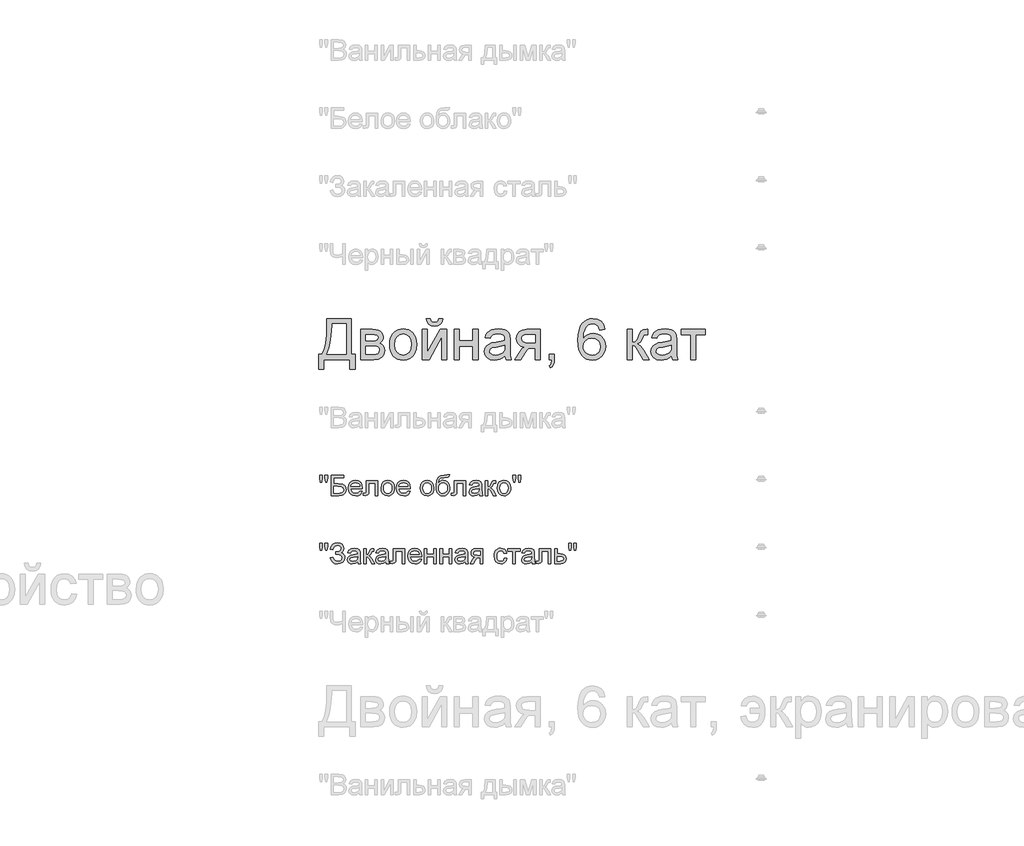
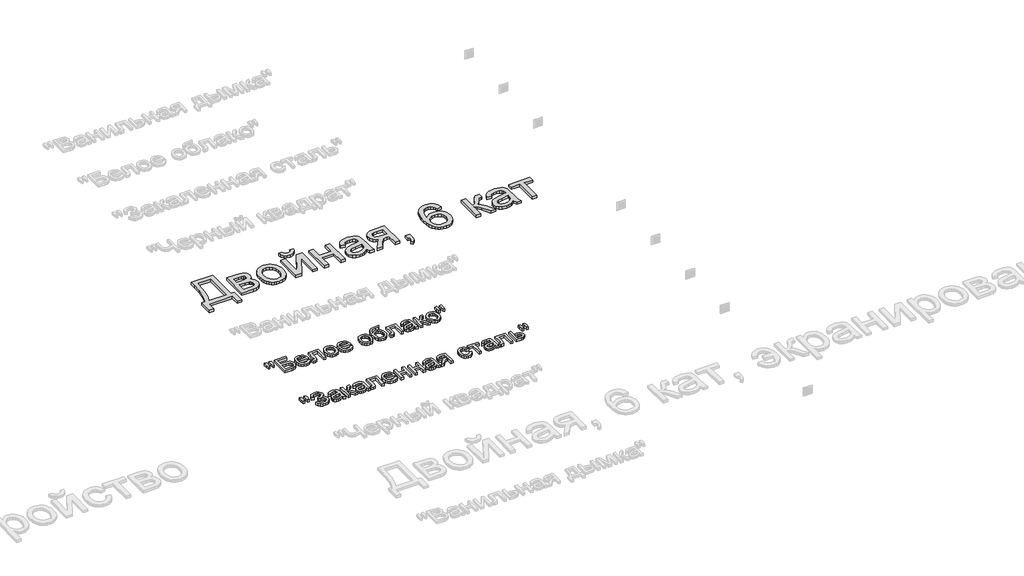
# One storey, part 155 of 168: 3 proxies.
"""IFC4 building model written with IfcOpenShell, lengths in millimetres."""

from ifc_helpers import new_model, si_unit, origin, origin_with_axes, place, context, project, spatial, polyline, outline, extrude, element, save

model = new_model("IFC4")

# Units and contexts
model_context = context("Model", 3, world=origin())
ifc_project = project(units=[si_unit("LENGTHUNIT", "METRE", prefix="MILLI")], contexts=[model_context])

# Site, building, storey
site = spatial("IfcSite", under=ifc_project)
building = spatial("IfcBuilding", under=site)
storey = spatial("IfcBuildingStorey", under=building, Name="Этаж 01", Elevation=0.0)

# Proxies
placement = place(None, origin())
element("IfcBuildingElementProxy", 1, Name="300 мм Arial 2", ObjectType="300 мм Arial 2", at=placement, inside=storey, context=model_context, shape_type="SweptSolid", body=[
    extrude(outline(polyline([(77327.3478389, -13847.0367511), (77506.2856413, -13847.0367511), (77506.2856413, -14110.7345653), (77534.5389786, -14110.7345653), (77534.5389786, -14219.0390246), (77496.8678623, -14219.0390246), (77496.8678623, -14148.4056816), (77303.8033912, -14148.4056816), (77303.8033912, -14219.0390246), (77266.1322749, -14219.0390246), (77266.1322749, -14110.7345653), (77289.6767226, -14110.7345653), (77306.157836, -14076.5629264), (77317.9300598, -14028.4945452), (77324.9933941, -13966.5294217), (77327.3478389, -13890.6675557), (77327.3478389, -13847.0367511)]), holes=[polyline([(77468.614525, -13884.7078674), (77365.0189552, -13884.7078674), (77365.0189552, -13899.8646056), (77357.3670097, -14003.0922935), (77346.0362442, -14062.744359), (77327.3478389, -14110.7345653), (77468.614525, -14110.7345653), (77468.614525, -13884.7078674)])]), origin_with_axes(), (0.0, 0.0, 1.0), 20.0),
    extrude(outline(polyline([(77576.9189844, -13927.0878733), (77659.9131625, -13927.0878733), (77686.5938042, -13928.3478691), (77705.4201653, -13932.1278566), (77719.2709224, -13939.2647673), (77731.0247522, -13950.5955328), (77739.0537767, -13965.3567978), (77741.7301183, -13982.7852073), (77740.1114375, -13996.8291025), (77735.2553951, -14008.9416172), (77727.1435971, -14019.1779337), (77715.7576494, -14027.5932344), (77729.700377, -14035.4199238), (77741.0679307, -14048.0106851), (77748.6279057, -14064.3722368), (77751.1478973, -14083.5112976), (77744.7651447, -14112.2244873), (77729.5900124, -14132.439603), (77705.5673181, -14144.4141619), (77672.6418796, -14148.4056816), (77576.9189844, -14148.4056816), (77576.9189844, -13927.0878733)]), holes=[polyline([(77614.5901007, -14011.847885), (77651.8197586, -14011.847885), (77682.5379052, -14009.9348986), (77697.4739142, -14002.2829531), (77702.41273, -13995.9553828), (77704.0590019, -13988.4505901), (77701.1711283, -13977.2117951), (77692.5075073, -13969.9829139), (77676.8541284, -13966.0649707), (77652.996981, -13964.7589896), (77614.5901007, -13964.7589896), (77614.5901007, -14011.847885)]), polyline([(77614.5901007, -14110.7345653), (77660.7960793, -14110.7345653), (77685.9776019, -14109.033111), (77701.7781336, -14103.9287484), (77710.2578136, -14094.648925), (77713.476781, -14080.4210889), (77711.8672973, -14070.9941127), (77707.0388461, -14062.2845065), (77699.6260239, -14055.4694925), (77690.2634271, -14051.7262932), (77657.1172594, -14049.5190013), (77614.5901007, -14049.5190013), (77614.5901007, -14110.7345653)])]), origin_with_axes(), (0.0, 0.0, 1.0), 20.0),
    extrude(outline(polyline([(77788.8190136, -14037.7467774), (77790.8561602, -14009.0841715), (77796.9675998, -13984.385494), (77807.1533326, -13963.6507451), (77821.4133584, -13946.8799246), (77835.7699533, -13936.160763), (77851.6164702, -13928.504219), (77868.9529092, -13923.9102925), (77887.7792703, -13922.3789837), (77908.5623038, -13924.2436856), (77927.354176, -13929.8377912), (77944.1548868, -13939.1613005), (77958.9644364, -13952.2142135), (77971.0516592, -13968.5550719), (77979.6853898, -13987.7424172), (77984.8656281, -14009.7762495), (77986.5923742, -14034.6565687), (77983.5389537, -14072.7139611), (77974.378692, -14101.6846682), (77959.3783037, -14123.3805088), (77938.8045031, -14139.6133019), (77914.3679415, -14149.7392538), (77887.7792703, -14153.1145711), (77866.6927342, -14151.256767), (77847.7261181, -14145.6833548), (77830.879422, -14136.3943344), (77816.1526459, -14123.3897059), (77804.1941818, -14106.8901984), (77795.6524217, -14087.1165412), (77790.5273657, -14064.0687342), (77788.8190136, -14037.7467774)]), holes=[polyline([(77826.4901299, -14037.673201), (77830.8495316, -14071.7666649), (77843.9277365, -14096.0560737), (77863.6094233, -14110.5966095), (77887.7792703, -14115.4434548), (77911.8387528, -14110.5690184), (77931.4836514, -14095.9457091), (77944.5618563, -14071.3344036), (77948.9212579, -14036.4959786), (77944.5342651, -14003.3957961), (77931.3732868, -13979.4374812), (77911.7007971, -13964.8969453), (77887.7792703, -13960.0501), (77863.6094233, -13964.8785512), (77843.9277365, -13979.3639048), (77830.8495316, -14003.5981312), (77826.4901299, -14037.673201)])]), origin_with_axes(), (0.0, 0.0, 1.0), 20.0),
    extrude(outline(polyline([(78028.9723801, -13927.0878733), (78066.6434964, -13927.0878733), (78066.6434964, -14095.8721327), (78159.2026064, -13927.0878733), (78207.9101825, -13927.0878733), (78207.9101825, -14148.4056816), (78170.2390662, -14148.4056816), (78170.2390662, -13980.6514918), (78078.2685674, -14148.4056816), (78028.9723801, -14148.4056816), (78028.9723801, -13927.0878733)])), origin_with_axes(), (0.0, 0.0, 1.0), 20.0),
    extrude(outline(polyline([(78151.4035081, -13847.0367511), (78179.6568453, -13847.0367511), (78173.5775953, -13871.160613), (78161.3731102, -13888.9385104), (78143.5952127, -13899.8921968), (78120.7957261, -13903.5434256), (78096.0556619, -13899.9197879), (78076.8706159, -13889.048875), (78063.7556227, -13871.2985687), (78057.2257173, -13847.0367511), (78085.4790545, -13847.0367511), (78089.4521801, -13859.4435714), (78096.074056, -13868.2635422), (78105.3814705, -13873.5334518), (78117.4112117, -13875.2900883), (78130.9860574, -13873.5886341), (78140.8085066, -13868.4842714), (78147.4303825, -13859.7194829), (78151.4035081, -13847.0367511)])), origin_with_axes(), (0.0, 0.0, 1.0), 20.0),
    extrude(outline(polyline([(78264.416857, -13927.0878733), (78302.0879733, -13927.0878733), (78302.0879733, -14011.847885), (78400.9746536, -14011.847885), (78400.9746536, -13927.0878733), (78438.6457699, -13927.0878733), (78438.6457699, -14148.4056816), (78400.9746536, -14148.4056816), (78400.9746536, -14049.5190013), (78302.0879733, -14049.5190013), (78302.0879733, -14148.4056816), (78264.416857, -14148.4056816), (78264.416857, -13927.0878733)])), origin_with_axes(), (0.0, 0.0, 1.0), 20.0),
    extrude(outline(polyline([(78636.4191305, -14120.1523443), (78618.4205039, -14135.584994), (78599.8884484, -14145.6833548), (78580.3998997, -14151.256767), (78559.5317935, -14153.1145711), (78528.0502918, -14148.6448049), (78504.8277408, -14135.2355061), (78490.5079342, -14114.8732377), (78485.7346653, -14089.5445623), (78487.5372871, -14073.9279716), (78492.9451524, -14059.7461207), (78501.2868766, -14047.6060149), (78511.8910752, -14038.1146594), (78538.2682142, -14025.7538244), (78570.862559, -14020.0884417), (78609.3798039, -14014.1287533), (78636.1984013, -14007.1389954), (78636.4191305, -13998.7512859), (78633.8255625, -13981.9390788), (78626.0448583, -13970.9394071), (78608.6440399, -13962.7724268), (78584.4006164, -13960.0501), (78561.9598147, -13961.8619189), (78546.2880417, -13967.2973753), (78535.6010697, -13977.3497509), (78528.1146711, -13993.0123268), (78490.4435548, -13988.3034373), (78496.9826573, -13967.7020455), (78506.7407272, -13951.5152378), (78520.6282725, -13939.1360086), (78539.5558012, -13929.9573528), (78562.7047757, -13924.273576), (78589.2566587, -13922.3789837), (78614.7232899, -13924.0528468), (78634.9108143, -13929.074436), (78650.1319319, -13936.625214), (78660.6993422, -13945.8866432), (78667.7074942, -13957.3369703), (78672.2508369, -13971.4544419), (78674.0902468, -14004.4166687), (78674.0902468, -14051.2848348), (78676.0032332, -14116.7310418), (78683.5080259, -14148.4056816), (78645.8369096, -14148.4056816), (78636.4191305, -14120.1523443)]), holes=[polyline([(78636.4191305, -14044.8101117), (78575.6450249, -14056.3616064), (78543.2346211, -14062.4684475), (78528.5561295, -14072.4012614), (78523.4057816, -14086.895812), (78526.2108818, -14098.0978187), (78534.6261825, -14107.2764745), (78548.4677425, -14113.4017097), (78567.551621, -14115.4434548), (78587.7851308, -14113.1901776), (78605.6641957, -14106.4303459), (78620.1587463, -14096.4699409), (78630.238713, -14084.6149436), (78634.7084792, -14072.4012614), (78636.1984013, -14055.4786896), (78636.4191305, -14044.8101117)])]), origin_with_axes(), (0.0, 0.0, 1.0), 20.0),
    extrude(outline(polyline([(78895.4080551, -13927.0878733), (78895.4080551, -14148.4056816), (78857.7369388, -14148.4056816), (78857.7369388, -14063.6456699), (78837.2091235, -14063.6456699), (78809.2500919, -14068.4281358), (78798.0848733, -14078.8575904), (78782.9833174, -14100.5810222), (78752.9641466, -14148.4056816), (78709.4069184, -14148.4056816), (78747.2251875, -14087.9258816), (78763.9270301, -14066.2208438), (78779.3044975, -14056.5823356), (78753.5527578, -14048.6912668), (78735.4529636, -14033.7000755), (78724.7475976, -14013.7608713), (78721.1791422, -13991.025764), (78726.0535786, -13965.2372362), (78740.676888, -13944.8197854), (78764.5340353, -13931.5208513), (78797.109986, -13927.0878733), (78895.4080551, -13927.0878733)]), holes=[polyline([(78857.7369388, -13964.7589896), (78808.0728695, -13964.7589896), (78782.4222974, -13966.9386904), (78767.8633674, -13973.4777929), (78761.1035357, -13982.9415572), (78758.8502585, -13993.8952436), (78762.1703935, -14008.2518385), (78772.1307985, -14018.2122435), (78790.5340954, -14024.033976), (78819.1829057, -14025.9745536), (78857.7369388, -14025.9745536), (78857.7369388, -13964.7589896)])]), origin_with_axes(), (0.0, 0.0, 1.0), 20.0),
    extrude(outline(polyline([(78961.3325087, -14148.4056816), (78961.3325087, -14110.7345653), (78999.003625, -14110.7345653), (78999.003625, -14148.4056816), (78997.3113678, -14169.9543694), (78992.2345963, -14186.9229265), (78983.4790048, -14199.936752), (78970.7502877, -14209.6212456), (78961.3325087, -14195.494577), (78969.499489, -14188.6703659), (78975.1648717, -14179.2341928), (78980.0944904, -14148.4056816), (78961.3325087, -14148.4056816)])), origin_with_axes(), (0.0, 0.0, 1.0), 20.0),
    extrude(outline(polyline([(79371.0058985, -13927.0878733), (79333.3347822, -13931.7967628), (79327.2647293, -13913.1267516), (79319.0609608, -13900.3796404), (79301.9728421, -13888.6258107), (79281.3162681, -13884.7078674), (79263.8050851, -13886.9887358), (79247.3239717, -13893.8313409), (79233.169712, -13908.2431181), (79221.6090203, -13928.0811547), (79213.8007249, -13956.1413538), (79210.9036542, -13995.2196188), (79226.0144071, -13977.5888742), (79244.1233984, -13965.1636598), (79264.2189523, -13957.7968228), (79285.2893936, -13955.3412105), (79303.3891878, -13957.0196721), (79320.0910304, -13962.0550569), (79335.3949214, -13970.4473649), (79349.3008608, -13982.1965961), (79360.856954, -13996.6037748), (79369.1113062, -14012.969925), (79374.0639176, -14031.2950469), (79375.714788, -14051.5791404), (79372.6061852, -14078.5540877), (79363.2803766, -14103.5608664), (79348.5099145, -14124.7692634), (79329.067351, -14140.3490659), (79305.835603, -14149.9231948), (79279.6975873, -14153.1145711), (79257.2406907, -14150.9992496), (79236.9588965, -14144.6532852), (79218.8522046, -14134.0766779), (79202.9206149, -14119.2694276), (79189.9320812, -14099.6061349), (79180.6545571, -14074.4614005), (79175.0880427, -14043.8352244), (79173.2325379, -14007.7276066), (79175.2926771, -13967.2467916), (79181.4730946, -13932.6980737), (79191.7737904, -13904.081453), (79206.1947647, -13881.3969295), (79221.8251509, -13866.3643514), (79239.9479377, -13855.6267957), (79260.563125, -13849.1842623), (79283.6707128, -13847.0367511), (79316.7249101, -13852.352646), (79343.1940197, -13868.3003304), (79361.7352722, -13893.6290058), (79371.0058985, -13927.0878733)]), holes=[polyline([(79210.9036542, -14050.9905292), (79213.083355, -14067.6831748), (79219.6224575, -14083.6216622), (79229.7760005, -14097.3252665), (79242.7990232, -14107.3132627), (79258.5167814, -14113.4109068), (79276.7545313, -14115.4434548), (79301.6141572, -14111.231206), (79321.1578881, -14098.5944594), (79333.8222258, -14078.7288317), (79338.0436717, -14052.8299392), (79333.8774081, -14027.9703134), (79321.3786173, -14009.0151936), (79301.5037926, -13997.0130435), (79275.2094269, -13993.0123268), (79250.3865893, -13997.0130435), (79229.6288477, -14009.0151936), (79215.5849526, -14027.5104609), (79210.9036542, -14050.9905292)])]), origin_with_axes(), (0.0, 0.0, 1.0), 20.0),
    extrude(outline(polyline([(79535.8170323, -13927.0878733), (79573.4881486, -13927.0878733), (79573.4881486, -14021.265664), (79588.8104337, -14019.5734069), (79598.7248535, -14014.4966353), (79607.4988391, -14001.2528835), (79619.3998216, -13975.0596854), (79636.5799108, -13941.0306009), (79651.736649, -13929.9573528), (79679.2910105, -13927.0878733), (79686.5014976, -13927.0878733), (79686.5014976, -13964.9797188), (79676.3479545, -13964.7589896), (79657.9538547, -13968.7321151), (79645.0044085, -13993.5273616), (79629.8108821, -14020.345959), (79608.5105146, -14033.4793463), (79620.4482853, -14038.7814455), (79632.2756915, -14048.1394438), (79655.59941, -14079.0231373), (79695.9192766, -14148.4056816), (79653.0978124, -14148.4056816), (79613.5872861, -14080.4946653), (79593.7216584, -14051.7630814), (79584.432638, -14046.5483542), (79573.4881486, -14044.8101117), (79573.4881486, -14148.4056816), (79535.8170323, -14148.4056816), (79535.8170323, -13927.0878733)])), origin_with_axes(), (0.0, 0.0, 1.0), 20.0),
    extrude(outline(polyline([(79860.7304105, -14120.1523443), (79842.7317839, -14135.584994), (79824.1997284, -14145.6833548), (79804.7111797, -14151.256767), (79783.8430735, -14153.1145711), (79752.3615717, -14148.6448049), (79729.1390208, -14135.2355061), (79714.8192141, -14114.8732377), (79710.0459452, -14089.5445623), (79711.848567, -14073.9279716), (79717.2564324, -14059.7461207), (79725.5981566, -14047.6060149), (79736.2023551, -14038.1146594), (79762.5794942, -14025.7538244), (79795.1738389, -14020.0884417), (79833.6910838, -14014.1287533), (79860.5096813, -14007.1389954), (79860.7304105, -13998.7512859), (79858.1368424, -13981.9390788), (79850.3561382, -13970.9394071), (79832.9553198, -13962.7724268), (79808.7118964, -13960.0501), (79786.2710946, -13961.8619189), (79770.5993217, -13967.2973753), (79759.9123497, -13977.3497509), (79752.4259511, -13993.0123268), (79714.7548348, -13988.3034373), (79721.2939373, -13967.7020455), (79731.0520072, -13951.5152378), (79744.9395525, -13939.1360086), (79763.8670811, -13929.9573528), (79787.0160557, -13924.273576), (79813.5679387, -13922.3789837), (79839.0345698, -13924.0528468), (79859.2220943, -13929.074436), (79874.4432118, -13936.625214), (79885.0106222, -13945.8866432), (79892.0187742, -13957.3369703), (79896.5621168, -13971.4544419), (79898.4015268, -14004.4166687), (79898.4015268, -14051.2848348), (79900.3145132, -14116.7310418), (79907.8193059, -14148.4056816), (79870.1481895, -14148.4056816), (79860.7304105, -14120.1523443)]), holes=[polyline([(79860.7304105, -14044.8101117), (79799.9563049, -14056.3616064), (79767.5459011, -14062.4684475), (79752.8674095, -14072.4012614), (79747.7170616, -14086.895812), (79750.5221618, -14098.0978187), (79758.9374624, -14107.2764745), (79772.7790225, -14113.4017097), (79791.862901, -14115.4434548), (79812.0964107, -14113.1901776), (79829.9754757, -14106.4303459), (79844.4700263, -14096.4699409), (79854.549993, -14084.6149436), (79859.0197592, -14072.4012614), (79860.5096813, -14055.4786896), (79860.7304105, -14044.8101117)])]), origin_with_axes(), (0.0, 0.0, 1.0), 20.0),
    extrude(outline(polyline([(79931.3637535, -13927.0878733), (80110.301556, -13927.0878733), (80110.301556, -13964.7589896), (80039.6682129, -13964.7589896), (80039.6682129, -14148.4056816), (80001.9970966, -14148.4056816), (80001.9970966, -13964.7589896), (79931.3637535, -13964.7589896), (79931.3637535, -13927.0878733)])), origin_with_axes(), (0.0, 0.0, 1.0), 20.0),
])
element("IfcBuildingElementProxy", 2, Name="150", ObjectType="150", at=placement, inside=storey, context=model_context, shape_type="SweptSolid", body=[
    extrude(outline(polyline([(77280.1485789, -15051.873446), (77275.550054, -15022.7739802), (77275.550054, -14997.7212163), (77294.3856121, -14997.7212163), (77294.3856121, -15022.7739802), (77290.2653338, -15051.873446), (77280.1485789, -15051.873446)])), origin_with_axes(), (0.0, 0.0, 1.0), 20.0),
    extrude(outline(polyline([(77317.7093306, -15051.873446), (77313.2211703, -15022.7739802), (77313.2211703, -14997.7212163), (77332.0567284, -14997.7212163), (77332.0567284, -15022.7739802), (77327.6421445, -15051.873446), (77317.7093306, -15051.873446)])), origin_with_axes(), (0.0, 0.0, 1.0), 20.0),
    extrude(outline(polyline([(77357.9556209, -14997.7212163), (77452.1334117, -14997.7212163), (77452.1334117, -15016.5567745), (77376.791179, -15016.5567745), (77376.791179, -15061.2912251), (77412.0710624, -15061.2912251), (77443.157091, -15065.1171979), (77453.5589544, -15070.6446248), (77461.6615553, -15079.5749603), (77466.8762826, -15091.0712726), (77468.614525, -15104.2966303), (77463.6665122, -15125.7625448), (77448.8960501, -15142.0781113), (77435.6247071, -15146.823789), (77415.4555767, -15148.4056816), (77357.9556209, -15148.4056816), (77357.9556209, -14997.7212163)]), holes=[polyline([(77376.791179, -15129.5701234), (77417.1478339, -15129.5701234), (77431.4124583, -15128.015822), (77441.6119866, -15123.3529177), (77447.7372218, -15115.5814105), (77449.7789669, -15104.7013005), (77445.1068655, -15089.9492325), (77432.102237, -15082.0765578), (77403.7201411, -15080.1267833), (77376.791179, -15080.1267833), (77376.791179, -15129.5701234)])]), origin_with_axes(), (0.0, 0.0, 1.0), 20.0),
    extrude(outline(polyline([(77569.6349209, -15115.4434548), (77588.1025971, -15117.7978996), (77581.4485315, -15131.713036), (77570.8305374, -15142.1148995), (77556.4877381, -15148.5988196), (77538.6592569, -15150.7601263), (77516.5587461, -15147.0307226), (77499.5534008, -15135.8425114), (77488.710079, -15117.9220597), (77485.0956384, -15093.9959345), (77488.7468672, -15069.2650674), (77499.7005536, -15050.7698), (77516.4759726, -15039.2366995), (77537.5923991, -15035.3923327), (77558.0512366, -15039.2275025), (77574.3989927, -15050.7330118), (77585.1181544, -15069.191491), (77588.6912083, -15093.8855699), (77588.5808437, -15098.9623414), (77503.9311966, -15098.9623414), (77507.1915508, -15113.0614189), (77514.7653213, -15123.4264941), (77525.6960151, -15129.8000497), (77539.0271389, -15131.9245682), (77557.4948151, -15127.9882308), (77569.6349209, -15115.4434548)]), holes=[polyline([(77503.9311966, -15080.1267833), (77569.8556501, -15080.1267833), (77567.3080673, -15070.1755753), (77562.3140692, -15063.0570587), (77551.3327917, -15056.4351828), (77537.5188227, -15054.2278908), (77524.8222954, -15055.9891259), (77514.3238629, -15061.272831), (77507.0260039, -15069.5087892), (77503.9311966, -15080.1267833)])]), origin_with_axes(), (0.0, 0.0, 1.0), 20.0),
    extrude(outline(polyline([(77616.9445455, -15037.7467774), (77701.7045572, -15037.7467774), (77701.7045572, -15148.295317), (77682.868999, -15148.295317), (77682.868999, -15056.5823356), (77635.7801036, -15056.5823356), (77635.7801036, -15109.3734019), (77634.5109108, -15133.72719), (77627.539547, -15144.0094917), (77611.0584336, -15148.4056816), (77595.7545426, -15147.4491884), (77595.7545426, -15129.5701234), (77604.1790403, -15129.5701234), (77612.6955084, -15128.4112951), (77616.0984169, -15124.7324752), (77616.9445455, -15108.3065441), (77616.9445455, -15037.7467774)])), origin_with_axes(), (0.0, 0.0, 1.0), 20.0),
    extrude(outline(polyline([(77725.2490049, -15093.0762295), (77729.323298, -15066.3955878), (77741.5461773, -15047.6428031), (77756.6477332, -15038.4549503), (77774.7291332, -15035.3923327), (77794.516586, -15039.1217364), (77810.3217163, -15050.3099476), (77820.6821929, -15068.0740494), (77824.1356852, -15091.5311251), (77822.6089749, -15110.5598213), (77818.0288441, -15125.0451749), (77810.5286499, -15135.8930952), (77800.2417496, -15144.0094917), (77788.0234688, -15149.0724677), (77774.7291332, -15150.7601263), (77754.7025571, -15147.0445182), (77738.915821, -15135.8976937), (77728.6657089, -15117.7611114), (77725.2490049, -15093.0762295)]), holes=[polyline([(77744.084563, -15093.0394413), (77746.2642638, -15110.0861732), (77752.8033663, -15122.2308776), (77762.6442097, -15129.5011455), (77774.7291332, -15131.9245682), (77786.7588745, -15129.48735), (77796.5813237, -15122.1756953), (77803.1204262, -15109.8700426), (77805.300127, -15092.4508301), (77803.1066306, -15075.9007388), (77796.5261414, -15063.9215814), (77786.6898966, -15056.6513134), (77774.7291332, -15054.2278908), (77762.6442097, -15056.6421164), (77752.8033663, -15063.8847932), (77746.2642638, -15076.0019064), (77744.084563, -15093.0394413)])]), origin_with_axes(), (0.0, 0.0, 1.0), 20.0),
    extrude(outline(polyline([(77922.8016363, -15115.4434548), (77941.2693124, -15117.7978996), (77934.6152469, -15131.713036), (77923.9972528, -15142.1148995), (77909.6544535, -15148.5988196), (77891.8259723, -15150.7601263), (77869.7254614, -15147.0307226), (77852.7201162, -15135.8425114), (77841.8767944, -15117.9220597), (77838.2623538, -15093.9959345), (77841.9135826, -15069.2650674), (77852.867269, -15050.7698), (77869.642688, -15039.2366995), (77890.7591145, -15035.3923327), (77911.217952, -15039.2275025), (77927.5657081, -15050.7330118), (77938.2848698, -15069.191491), (77941.8579236, -15093.8855699), (77941.747559, -15098.9623414), (77857.0979119, -15098.9623414), (77860.3582661, -15113.0614189), (77867.9320367, -15123.4264941), (77878.8627305, -15129.8000497), (77892.1938543, -15131.9245682), (77910.6615304, -15127.9882308), (77922.8016363, -15115.4434548)]), holes=[polyline([(77857.0979119, -15080.1267833), (77923.0223655, -15080.1267833), (77920.4747827, -15070.1755753), (77915.4807846, -15063.0570587), (77904.499507, -15056.4351828), (77890.6855381, -15054.2278908), (77877.9890107, -15055.9891259), (77867.4905783, -15061.272831), (77860.1927192, -15069.5087892), (77857.0979119, -15080.1267833)])]), origin_with_axes(), (0.0, 0.0, 1.0), 20.0),
    extrude(outline(polyline([(78014.8457115, -15093.0762295), (78018.9200046, -15066.3955878), (78031.1428839, -15047.6428031), (78046.2444398, -15038.4549503), (78064.3258398, -15035.3923327), (78084.1132926, -15039.1217364), (78099.9184229, -15050.3099476), (78110.2788995, -15068.0740494), (78113.7323918, -15091.5311251), (78112.2056815, -15110.5598213), (78107.6255507, -15125.0451749), (78100.1253565, -15135.8930952), (78089.8384562, -15144.0094917), (78077.6201754, -15149.0724677), (78064.3258398, -15150.7601263), (78044.2992637, -15147.0445182), (78028.5125276, -15135.8976937), (78018.2624155, -15117.7611114), (78014.8457115, -15093.0762295)]), holes=[polyline([(78033.6812696, -15093.0394413), (78035.8609704, -15110.0861732), (78042.4000729, -15122.2308776), (78052.2409163, -15129.5011455), (78064.3258398, -15131.9245682), (78076.3555811, -15129.48735), (78086.1780303, -15122.1756953), (78092.7171328, -15109.8700426), (78094.8968336, -15092.4508301), (78092.7033372, -15075.9007388), (78086.122848, -15063.9215814), (78076.2866032, -15056.6513134), (78064.3258398, -15054.2278908), (78052.2409163, -15056.6421164), (78042.4000729, -15063.8847932), (78035.8609704, -15076.0019064), (78033.6812696, -15093.0394413)])]), origin_with_axes(), (0.0, 0.0, 1.0), 20.0),
    extrude(outline(polyline([(78212.6190721, -14995.3667716), (78229.1001855, -14995.3667716), (78224.2441431, -15010.0636573), (78214.6424231, -15015.3795521), (78191.576222, -15016.5567745), (78160.5085875, -15020.897782), (78153.3808738, -15026.5447707), (78148.5892108, -15034.8037215), (78144.560903, -15059.4150269), (78160.8764695, -15041.3888092), (78170.7954878, -15036.8914518), (78181.9009255, -15035.3923327), (78201.4998388, -15039.2045098), (78217.401538, -15050.6410414), (78227.9413572, -15068.5798871), (78231.4546302, -15091.8990071), (78229.7117893, -15109.8792396), (78224.4832664, -15124.3094109), (78207.9469707, -15143.8623389), (78196.6529935, -15149.0356795), (78181.9009255, -15150.7601263), (78164.9001788, -15148.5390388), (78152.1576662, -15141.8757762), (78142.7812738, -15131.7498242), (78135.8788879, -15119.1406689), (78131.6298508, -15100.1533594), (78130.2135052, -15070.8929452), (78133.786559, -15034.7531377), (78144.5057207, -15012.7124076), (78162.6377045, -15001.4690142), (78188.449225, -14997.7212163), (78209.4184987, -14997.2981521), (78212.6190721, -14995.3667716)]), holes=[polyline([(78212.6190721, -15091.3103959), (78210.577327, -15076.48935), (78204.4520918, -15064.6205572), (78194.6112484, -15056.8260574), (78181.4226789, -15054.2278908), (78167.6730893, -15056.9732102), (78157.473561, -15065.2091684), (78151.1551877, -15078.0344544), (78149.0490633, -15094.5477575), (78151.3759169, -15110.5552228), (78158.3564778, -15122.304454), (78168.7491442, -15129.5195396), (78181.3123143, -15131.9245682), (78193.9398638, -15129.1424606), (78203.937057, -15120.7961378), (78210.4485683, -15107.8604872), (78212.6190721, -15091.3103959)])]), origin_with_axes(), (0.0, 0.0, 1.0), 20.0),
    extrude(outline(polyline([(78264.416857, -15037.7467774), (78349.1768687, -15037.7467774), (78349.1768687, -15148.295317), (78330.3413105, -15148.295317), (78330.3413105, -15056.5823356), (78283.2524152, -15056.5823356), (78283.2524152, -15109.3734019), (78281.9832223, -15133.72719), (78275.0118585, -15144.0094917), (78258.5307451, -15148.4056816), (78243.2268541, -15147.4491884), (78243.2268541, -15129.5701234), (78251.6513518, -15129.5701234), (78260.16782, -15128.4112951), (78263.5707284, -15124.7324752), (78264.416857, -15108.3065441), (78264.416857, -15037.7467774)])), origin_with_axes(), (0.0, 0.0, 1.0), 20.0),
    extrude(outline(polyline([(78448.063549, -15134.279013), (78429.7982079, -15147.0445182), (78409.6198805, -15150.7601263), (78393.8791296, -15148.5252432), (78382.2678542, -15141.8205939), (78375.1079508, -15131.6394596), (78372.7213164, -15118.975122), (78376.3265599, -15104.0759012), (78385.7995213, -15093.2601705), (78398.9880908, -15087.079753), (78415.2852632, -15084.2470616), (78447.9531844, -15077.7723385), (78448.063549, -15073.5784838), (78446.766765, -15065.1723802), (78442.8764129, -15059.6725443), (78434.1760037, -15055.5890542), (78422.0542919, -15054.2278908), (78402.9980046, -15057.8515285), (78393.9113193, -15070.7090042), (78375.0757612, -15068.3545594), (78383.2243473, -15049.9604597), (78399.6318843, -15039.1815172), (78424.4823131, -15035.3923327), (78447.3093909, -15038.7400588), (78460.2036548, -15047.1461624), (78465.9794022, -15059.9300617), (78466.8991071, -15076.4111751), (78466.8991071, -15099.8452582), (78467.8556003, -15132.5683617), (78471.6079967, -15148.4056816), (78452.7724385, -15148.4056816), (78448.063549, -15134.279013)]), holes=[polyline([(78448.063549, -15096.6078966), (78417.6764962, -15102.383644), (78401.4712943, -15105.4370645), (78394.1320485, -15110.4034715), (78391.5568745, -15117.6507468), (78397.167075, -15127.841078), (78413.6297942, -15131.9245682), (78432.6860816, -15127.4180137), (78444.9733402, -15116.5103126), (78447.9531844, -15101.9421856), (78448.063549, -15096.6078966)])]), origin_with_axes(), (0.0, 0.0, 1.0), 20.0),
    extrude(outline(polyline([(78492.7979996, -15037.7467774), (78511.6335578, -15037.7467774), (78511.6335578, -15084.8356728), (78524.2519102, -15081.4511584), (78534.5893943, -15061.7326835), (78543.1794388, -15044.7181412), (78550.7578079, -15039.1815172), (78564.5349887, -15037.7467774), (78568.1402322, -15037.7467774), (78568.1402322, -15056.6927002), (78563.0634607, -15056.5823356), (78553.8664108, -15058.5688983), (78547.3916877, -15070.9665216), (78539.7949245, -15084.3758203), (78529.1447407, -15090.9425139), (78541.0273292, -15098.2725627), (78552.6891884, -15113.7144094), (78572.8491218, -15148.4056816), (78551.4383896, -15148.4056816), (78531.6831265, -15114.4501734), (78521.7503126, -15100.0843815), (78511.6335578, -15096.6078966), (78511.6335578, -15148.4056816), (78492.7979996, -15148.4056816), (78492.7979996, -15037.7467774)])), origin_with_axes(), (0.0, 0.0, 1.0), 20.0),
    extrude(outline(polyline([(78579.9124561, -15093.0762295), (78583.9867492, -15066.3955878), (78596.2096285, -15047.6428031), (78611.3111844, -15038.4549503), (78629.3925844, -15035.3923327), (78649.1800372, -15039.1217364), (78664.9851674, -15050.3099476), (78675.3456441, -15068.0740494), (78678.7991364, -15091.5311251), (78677.2724261, -15110.5598213), (78672.6922952, -15125.0451749), (78665.1921011, -15135.8930952), (78654.9052008, -15144.0094917), (78642.68692, -15149.0724677), (78629.3925844, -15150.7601263), (78609.3660083, -15147.0445182), (78593.5792722, -15135.8976937), (78583.3291601, -15117.7611114), (78579.9124561, -15093.0762295)]), holes=[polyline([(78598.7480142, -15093.0394413), (78600.927715, -15110.0861732), (78607.4668175, -15122.2308776), (78617.3076609, -15129.5011455), (78629.3925844, -15131.9245682), (78641.4223257, -15129.48735), (78651.2447749, -15122.1756953), (78657.7838774, -15109.8700426), (78659.9635782, -15092.4508301), (78657.7700818, -15075.9007388), (78651.1895926, -15063.9215814), (78641.3533478, -15056.6513134), (78629.3925844, -15054.2278908), (78617.3076609, -15056.6421164), (78607.4668175, -15063.8847932), (78600.927715, -15076.0019064), (78598.7480142, -15093.0394413)])]), origin_with_axes(), (0.0, 0.0, 1.0), 20.0),
    extrude(outline(polyline([(78699.8787747, -15051.873446), (78695.2802498, -15022.7739802), (78695.2802498, -14997.7212163), (78714.1158079, -14997.7212163), (78714.1158079, -15022.7739802), (78709.9955296, -15051.873446), (78699.8787747, -15051.873446)])), origin_with_axes(), (0.0, 0.0, 1.0), 20.0),
    extrude(outline(polyline([(78737.4395264, -15051.873446), (78732.9513661, -15022.7739802), (78732.9513661, -14997.7212163), (78751.7869242, -14997.7212163), (78751.7869242, -15022.7739802), (78747.3723403, -15051.873446), (78737.4395264, -15051.873446)])), origin_with_axes(), (0.0, 0.0, 1.0), 20.0),
])
element("IfcBuildingElementProxy", 3, Name="150", ObjectType="150", at=placement, inside=storey, context=model_context, shape_type="SweptSolid", body=[
    extrude(outline(polyline([(77280.1485789, -15551.873446), (77275.550054, -15522.7739802), (77275.550054, -15497.7212163), (77294.3856121, -15497.7212163), (77294.3856121, -15522.7739802), (77290.2653338, -15551.873446), (77280.1485789, -15551.873446)])), origin_with_axes(), (0.0, 0.0, 1.0), 20.0),
    extrude(outline(polyline([(77317.7093306, -15551.873446), (77313.2211703, -15522.7739802), (77313.2211703, -15497.7212163), (77332.0567284, -15497.7212163), (77332.0567284, -15522.7739802), (77327.6421445, -15551.873446), (77317.7093306, -15551.873446)])), origin_with_axes(), (0.0, 0.0, 1.0), 20.0),
    extrude(outline(polyline([(77350.8922866, -15606.0256757), (77369.7278447, -15601.3167862), (77381.2977335, -15621.7158428), (77392.2284273, -15629.3723868), (77406.2217387, -15631.9245682), (77420.398991, -15630.0069833), (77431.2193202, -15624.2542286), (77438.0757209, -15615.7883442), (77440.3611878, -15605.7313701), (77437.8641888, -15595.1961495), (77430.3731916, -15587.0613589), (77418.5779752, -15581.8604272), (77403.1683181, -15580.1267833), (77393.2722924, -15580.1267833), (77393.2722924, -15561.2912251), (77414.591054, -15559.7645148), (77427.6324708, -15551.9654165), (77433.2978535, -15537.7099892), (77431.4124583, -15528.8394346), (77425.7562726, -15521.2104817), (77416.8811195, -15515.9543677), (77405.3388219, -15514.2023297), (77386.1169876, -15519.591801), (77375.117316, -15533.8840165), (77372.0822895, -15547.1645565), (77353.2467313, -15542.455667), (77359.0983543, -15521.8542752), (77369.7002536, -15507.1389954), (77385.0524291, -15498.3098275), (77405.1548809, -15495.3667716), (77424.5468605, -15498.4247907), (77439.4598769, -15507.5988479), (77448.965028, -15520.8655924), (77452.1334117, -15536.201673), (77447.2037929, -15554.8440931), (77432.4149367, -15568.7592296), (77442.8903765, -15573.5830823), (77451.5080123, -15581.7270699), (77457.2745625, -15592.4922168), (77459.196746, -15605.1795471), (77455.508729, -15623.0172254), (77444.444678, -15637.6819214), (77427.2921799, -15647.4905751), (77405.3388219, -15650.7601263), (77386.2365493, -15647.9642232), (77370.7947025, -15639.5765137), (77359.0132816, -15625.5969979), (77350.8922866, -15606.0256757)])), origin_with_axes(), (0.0, 0.0, 1.0), 20.0),
    extrude(outline(polyline([(77553.3745367, -15634.279013), (77535.1091957, -15647.0445182), (77514.9308682, -15650.7601263), (77499.1901174, -15648.5252432), (77487.5788419, -15641.8205939), (77480.4189386, -15631.6394596), (77478.0323041, -15618.975122), (77481.6375477, -15604.0759012), (77491.110509, -15593.2601705), (77504.2990786, -15587.079753), (77520.596251, -15584.2470616), (77553.2641721, -15577.7723385), (77553.3745367, -15573.5784838), (77552.0777527, -15565.1723802), (77548.1874006, -15559.6725443), (77539.4869914, -15555.5890542), (77527.3652797, -15554.2278908), (77508.3089923, -15557.8515285), (77499.222307, -15570.7090042), (77480.3867489, -15568.3545594), (77488.5353351, -15549.9604597), (77504.9428721, -15539.1815172), (77529.7933008, -15535.3923327), (77552.6203786, -15538.7400588), (77565.5146426, -15547.1461624), (77571.2903899, -15559.9300617), (77572.2100949, -15576.4111751), (77572.2100949, -15599.8452582), (77573.1665881, -15632.5683617), (77576.9189844, -15648.4056816), (77558.0834263, -15648.4056816), (77553.3745367, -15634.279013)]), holes=[polyline([(77553.3745367, -15596.6078966), (77522.9874839, -15602.383644), (77506.782282, -15605.4370645), (77499.4430362, -15610.4034715), (77496.8678623, -15617.6507468), (77502.4780627, -15627.841078), (77518.940782, -15631.9245682), (77537.9970693, -15627.4180137), (77550.284328, -15616.5103126), (77553.2641721, -15601.9421856), (77553.3745367, -15596.6078966)])]), origin_with_axes(), (0.0, 0.0, 1.0), 20.0),
    extrude(outline(polyline([(77598.1089873, -15537.7467774), (77616.9445455, -15537.7467774), (77616.9445455, -15584.8356728), (77629.5628979, -15581.4511584), (77639.900382, -15561.7326835), (77648.4904266, -15544.7181412), (77656.0687957, -15539.1815172), (77669.8459764, -15537.7467774), (77673.4512199, -15537.7467774), (77673.4512199, -15556.6927002), (77668.3744484, -15556.5823356), (77659.1773985, -15558.5688983), (77652.7026754, -15570.9665216), (77645.1059122, -15584.3758203), (77634.4557285, -15590.9425139), (77646.3383169, -15598.2725627), (77658.0001762, -15613.7144094), (77678.1601095, -15648.4056816), (77656.7493774, -15648.4056816), (77636.9941142, -15614.4501734), (77627.0613004, -15600.0843815), (77616.9445455, -15596.6078966), (77616.9445455, -15648.4056816), (77598.1089873, -15648.4056816), (77598.1089873, -15537.7467774)])), origin_with_axes(), (0.0, 0.0, 1.0), 20.0),
    extrude(outline(polyline([(77760.5656764, -15634.279013), (77742.3003353, -15647.0445182), (77722.1220079, -15650.7601263), (77706.381257, -15648.5252432), (77694.7699816, -15641.8205939), (77687.6100782, -15631.6394596), (77685.2234438, -15618.975122), (77688.8286873, -15604.0759012), (77698.3016487, -15593.2601705), (77711.4902183, -15587.079753), (77727.7873906, -15584.2470616), (77760.4553118, -15577.7723385), (77760.5656764, -15573.5784838), (77759.2688924, -15565.1723802), (77755.3785403, -15559.6725443), (77746.6781311, -15555.5890542), (77734.5564193, -15554.2278908), (77715.500132, -15557.8515285), (77706.4134467, -15570.7090042), (77687.5778886, -15568.3545594), (77695.7264748, -15549.9604597), (77712.1340117, -15539.1815172), (77736.9844405, -15535.3923327), (77759.8115183, -15538.7400588), (77772.7057822, -15547.1461624), (77778.4815296, -15559.9300617), (77779.4012346, -15576.4111751), (77779.4012346, -15599.8452582), (77780.3577277, -15632.5683617), (77784.1101241, -15648.4056816), (77765.2745659, -15648.4056816), (77760.5656764, -15634.279013)]), holes=[polyline([(77760.5656764, -15596.6078966), (77730.1786236, -15602.383644), (77713.9734217, -15605.4370645), (77706.6341759, -15610.4034715), (77704.0590019, -15617.6507468), (77709.6692024, -15627.841078), (77726.1319217, -15631.9245682), (77745.188209, -15627.4180137), (77757.4754676, -15616.5103126), (77760.4553118, -15601.9421856), (77760.5656764, -15596.6078966)])]), origin_with_axes(), (0.0, 0.0, 1.0), 20.0),
    extrude(outline(polyline([(77814.7179061, -15537.7467774), (77899.4779178, -15537.7467774), (77899.4779178, -15648.295317), (77880.6423596, -15648.295317), (77880.6423596, -15556.5823356), (77833.5534643, -15556.5823356), (77833.5534643, -15609.3734019), (77832.2842714, -15633.72719), (77825.3129076, -15644.0094917), (77808.8317942, -15648.4056816), (77793.5279032, -15647.4491884), (77793.5279032, -15629.5701234), (77801.9524009, -15629.5701234), (77810.4688691, -15628.4112951), (77813.8717775, -15624.7324752), (77814.7179061, -15608.3065441), (77814.7179061, -15537.7467774)])), origin_with_axes(), (0.0, 0.0, 1.0), 20.0),
    extrude(outline(polyline([(78005.2072032, -15615.4434548), (78023.6748794, -15617.7978996), (78017.0208138, -15631.713036), (78006.4028197, -15642.1148995), (77992.0600204, -15648.5988196), (77974.2315392, -15650.7601263), (77952.1310283, -15647.0307226), (77935.1256831, -15635.8425114), (77924.2823613, -15617.9220597), (77920.6679207, -15593.9959345), (77924.3191495, -15569.2650674), (77935.2728359, -15550.7698), (77952.0482549, -15539.2366995), (77973.1646814, -15535.3923327), (77993.6235189, -15539.2275025), (78009.971275, -15550.7330118), (78020.6904367, -15569.191491), (78024.2634906, -15593.8855699), (78024.153126, -15598.9623414), (77939.5034789, -15598.9623414), (77942.763833, -15613.0614189), (77950.3376036, -15623.4264941), (77961.2682974, -15629.8000497), (77974.5994212, -15631.9245682), (77993.0670974, -15627.9882308), (78005.2072032, -15615.4434548)]), holes=[polyline([(77939.5034789, -15580.1267833), (78005.4279324, -15580.1267833), (78002.8803496, -15570.1755753), (77997.8863515, -15563.0570587), (77986.9050739, -15556.4351828), (77973.091105, -15554.2278908), (77960.3945777, -15555.9891259), (77949.8961452, -15561.272831), (77942.5982861, -15569.5087892), (77939.5034789, -15580.1267833)])]), origin_with_axes(), (0.0, 0.0, 1.0), 20.0),
    extrude(outline(polyline([(78043.0990487, -15537.7467774), (78061.9346069, -15537.7467774), (78061.9346069, -15580.1267833), (78111.377947, -15580.1267833), (78111.377947, -15537.7467774), (78130.2135052, -15537.7467774), (78130.2135052, -15648.4056816), (78111.377947, -15648.4056816), (78111.377947, -15598.9623414), (78061.9346069, -15598.9623414), (78061.9346069, -15648.4056816), (78043.0990487, -15648.4056816), (78043.0990487, -15537.7467774)])), origin_with_axes(), (0.0, 0.0, 1.0), 20.0),
    extrude(outline(polyline([(78158.4668424, -15537.7467774), (78177.3024005, -15537.7467774), (78177.3024005, -15580.1267833), (78226.7457407, -15580.1267833), (78226.7457407, -15537.7467774), (78245.5812988, -15537.7467774), (78245.5812988, -15648.4056816), (78226.7457407, -15648.4056816), (78226.7457407, -15598.9623414), (78177.3024005, -15598.9623414), (78177.3024005, -15648.4056816), (78158.4668424, -15648.4056816), (78158.4668424, -15537.7467774)])), origin_with_axes(), (0.0, 0.0, 1.0), 20.0),
    extrude(outline(polyline([(78344.4679792, -15634.279013), (78326.2026381, -15647.0445182), (78306.0243107, -15650.7601263), (78290.2835598, -15648.5252432), (78278.6722843, -15641.8205939), (78271.512381, -15631.6394596), (78269.1257465, -15618.975122), (78272.7309901, -15604.0759012), (78282.2039515, -15593.2601705), (78295.392521, -15587.079753), (78311.6896934, -15584.2470616), (78344.3576146, -15577.7723385), (78344.4679792, -15573.5784838), (78343.1711951, -15565.1723802), (78339.280843, -15559.6725443), (78330.5804338, -15555.5890542), (78318.4587221, -15554.2278908), (78299.4024347, -15557.8515285), (78290.3157495, -15570.7090042), (78271.4801913, -15568.3545594), (78279.6287775, -15549.9604597), (78296.0363145, -15539.1815172), (78320.8867433, -15535.3923327), (78343.7138211, -15538.7400588), (78356.608085, -15547.1461624), (78362.3838323, -15559.9300617), (78363.3035373, -15576.4111751), (78363.3035373, -15599.8452582), (78364.2600305, -15632.5683617), (78368.0124268, -15648.4056816), (78349.1768687, -15648.4056816), (78344.4679792, -15634.279013)]), holes=[polyline([(78344.4679792, -15596.6078966), (78314.0809264, -15602.383644), (78297.8757245, -15605.4370645), (78290.5364787, -15610.4034715), (78287.9613047, -15617.6507468), (78293.5715051, -15627.841078), (78310.0342244, -15631.9245682), (78329.0905118, -15627.4180137), (78341.3777704, -15616.5103126), (78344.3576146, -15601.9421856), (78344.4679792, -15596.6078966)])]), origin_with_axes(), (0.0, 0.0, 1.0), 20.0),
    extrude(outline(polyline([(78473.9624415, -15537.7467774), (78473.9624415, -15648.4056816), (78455.1268833, -15648.4056816), (78455.1268833, -15606.0256757), (78444.8629756, -15606.0256757), (78430.8834598, -15608.4169087), (78417.7500726, -15624.4933519), (78402.7404872, -15648.4056816), (78380.9618731, -15648.4056816), (78399.8710076, -15618.1657816), (78408.2219289, -15607.3132627), (78415.9106626, -15602.4940086), (78403.0347928, -15598.5484742), (78393.9848957, -15591.0528785), (78388.6322127, -15581.0832765), (78386.847985, -15569.7157228), (78389.2852032, -15556.8214589), (78396.5968579, -15546.6127335), (78408.5254316, -15539.9632664), (78424.8134069, -15537.7467774), (78473.9624415, -15537.7467774)]), holes=[polyline([(78455.1268833, -15556.5823356), (78430.2948486, -15556.5823356), (78417.4695626, -15557.672186), (78410.1900976, -15560.9417372), (78405.6835431, -15571.1504626), (78407.3436107, -15578.32876), (78412.3238132, -15583.3089625), (78435.8498668, -15587.1901176), (78455.1268833, -15587.1901176), (78455.1268833, -15556.5823356)])]), origin_with_axes(), (0.0, 0.0, 1.0), 20.0),
    extrude(outline(polyline([(78631.710241, -15608.3801205), (78650.5457991, -15610.7345653), (78645.2942837, -15627.4869916), (78635.4258491, -15640.1467308), (78621.8693976, -15648.1067774), (78605.5538311, -15650.7601263), (78585.518058, -15647.0583138), (78569.8508835, -15635.952876), (78559.7387272, -15617.9312568), (78556.3680084, -15593.4808997), (78557.8073467, -15576.7192763), (78562.1253616, -15562.192536), (78569.391031, -15550.4616989), (78579.6733328, -15542.087785), (78591.974387, -15537.0661957), (78605.2963137, -15535.3923327), (78621.2118085, -15537.6915951), (78633.9359271, -15544.5893825), (78643.0639991, -15555.7178129), (78648.1913544, -15570.7090042), (78629.3557962, -15573.063449), (78620.6185988, -15558.9551744), (78605.4434665, -15554.2278908), (78593.271171, -15556.5547444), (78583.6096701, -15563.5353053), (78577.3050924, -15575.5466524), (78575.2035665, -15592.9658649), (78577.2591072, -15610.6196021), (78583.4257291, -15622.672336), (78592.9124861, -15629.6115101), (78604.9284317, -15631.9245682), (78614.6819031, -15630.4806314), (78622.678738, -15626.1488209), (78628.4958721, -15618.8187721), (78631.710241, -15608.3801205)])), origin_with_axes(), (0.0, 0.0, 1.0), 20.0),
    extrude(outline(polyline([(78657.6091334, -15537.7467774), (78747.0780347, -15537.7467774), (78747.0780347, -15556.5823356), (78711.7613631, -15556.5823356), (78711.7613631, -15648.4056816), (78692.925805, -15648.4056816), (78692.925805, -15556.5823356), (78657.6091334, -15556.5823356), (78657.6091334, -15537.7467774)])), origin_with_axes(), (0.0, 0.0, 1.0), 20.0),
    extrude(outline(polyline([(78834.1924911, -15634.279013), (78815.9271501, -15647.0445182), (78795.7488226, -15650.7601263), (78780.0080718, -15648.5252432), (78768.3967963, -15641.8205939), (78761.236893, -15631.6394596), (78758.8502585, -15618.975122), (78762.4555021, -15604.0759012), (78771.9284634, -15593.2601705), (78785.117033, -15587.079753), (78801.4142054, -15584.2470616), (78834.0821265, -15577.7723385), (78834.1924911, -15573.5784838), (78832.8957071, -15565.1723802), (78829.005355, -15559.6725443), (78820.3049458, -15555.5890542), (78808.1832341, -15554.2278908), (78789.1269467, -15557.8515285), (78780.0402614, -15570.7090042), (78761.2047033, -15568.3545594), (78769.3532895, -15549.9604597), (78785.7608265, -15539.1815172), (78810.6112552, -15535.3923327), (78833.438333, -15538.7400588), (78846.332597, -15547.1461624), (78852.1083443, -15559.9300617), (78853.0280493, -15576.4111751), (78853.0280493, -15599.8452582), (78853.9845425, -15632.5683617), (78857.7369388, -15648.4056816), (78838.9013807, -15648.4056816), (78834.1924911, -15634.279013)]), holes=[polyline([(78834.1924911, -15596.6078966), (78803.8054383, -15602.383644), (78787.6002364, -15605.4370645), (78780.2609906, -15610.4034715), (78777.6858167, -15617.6507468), (78783.2960171, -15627.841078), (78799.7587364, -15631.9245682), (78818.8150237, -15627.4180137), (78831.1022824, -15616.5103126), (78834.0821265, -15601.9421856), (78834.1924911, -15596.6078966)])]), origin_with_axes(), (0.0, 0.0, 1.0), 20.0),
    extrude(outline(polyline([(78888.3447208, -15537.7467774), (78973.1047325, -15537.7467774), (78973.1047325, -15648.295317), (78954.2691744, -15648.295317), (78954.2691744, -15556.5823356), (78907.180279, -15556.5823356), (78907.180279, -15609.3734019), (78905.9110861, -15633.72719), (78898.9397223, -15644.0094917), (78882.4586089, -15648.4056816), (78867.1547179, -15647.4491884), (78867.1547179, -15629.5701234), (78875.5792156, -15629.5701234), (78884.0956838, -15628.4112951), (78887.4985922, -15624.7324752), (78888.3447208, -15608.3065441), (78888.3447208, -15537.7467774)])), origin_with_axes(), (0.0, 0.0, 1.0), 20.0),
    extrude(outline(polyline([(79001.3580697, -15537.7467774), (79020.1936279, -15537.7467774), (79020.1936279, -15577.7723385), (79041.8986656, -15577.7723385), (79060.7158297, -15580.1313818), (79074.6401632, -15587.2085117), (79083.2486019, -15598.433511), (79086.1180814, -15613.2361628), (79083.6762647, -15626.7144394), (79076.3508145, -15638.0865916), (79063.6542871, -15645.8259091), (79045.099239, -15648.4056816), (79001.3580697, -15648.4056816), (79001.3580697, -15537.7467774)]), holes=[polyline([(79020.1936279, -15629.5701234), (79037.7783873, -15629.5701234), (79060.4951005, -15625.615392), (79065.5856676, -15620.552416), (79067.2825233, -15613.272951), (79062.260934, -15601.6846682), (79054.1905228, -15597.8770895), (79040.0224674, -15596.6078966), (79020.1936279, -15596.6078966), (79020.1936279, -15629.5701234)])]), origin_with_axes(), (0.0, 0.0, 1.0), 20.0),
    extrude(outline(polyline([(79109.5521645, -15551.873446), (79104.9536396, -15522.7739802), (79104.9536396, -15497.7212163), (79123.7891977, -15497.7212163), (79123.7891977, -15522.7739802), (79119.6689194, -15551.873446), (79109.5521645, -15551.873446)])), origin_with_axes(), (0.0, 0.0, 1.0), 20.0),
    extrude(outline(polyline([(79147.1129162, -15551.873446), (79142.6247559, -15522.7739802), (79142.6247559, -15497.7212163), (79161.460314, -15497.7212163), (79161.460314, -15522.7739802), (79157.0457301, -15551.873446), (79147.1129162, -15551.873446)])), origin_with_axes(), (0.0, 0.0, 1.0), 20.0),
])

save(model, "model.ifc")
